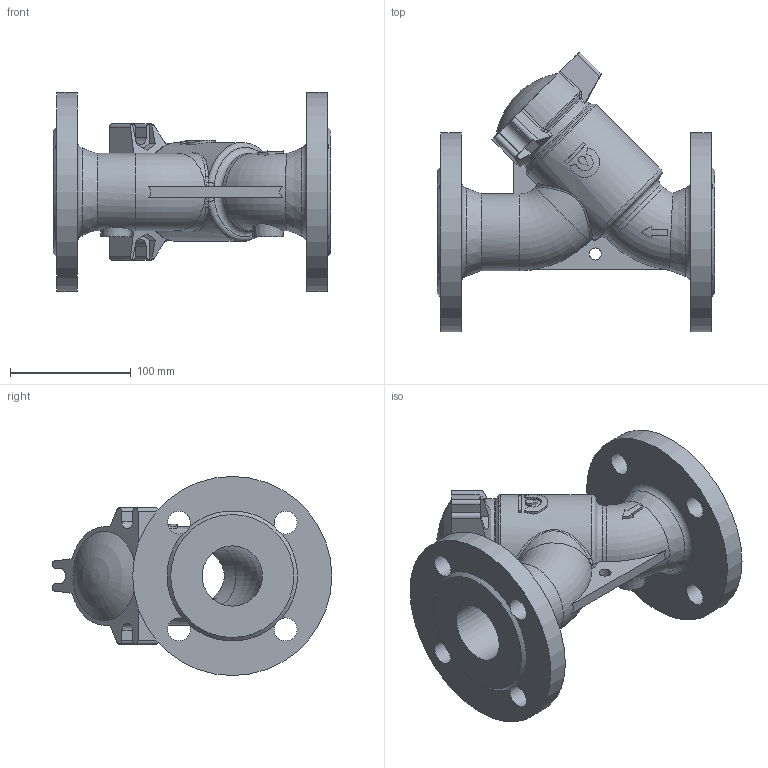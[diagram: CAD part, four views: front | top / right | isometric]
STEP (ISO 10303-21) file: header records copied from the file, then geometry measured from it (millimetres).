
FILE_DESCRIPTION(('STEP AP203'), '1');
FILE_NAME('Ôèëüòð ñåò÷àòûé ôëàíöåâûé 021Y.M DN50 PN10_PN16', '', ('UNSPECIFIED'), ('UNSPECIFIED'), 'ASCON STEP Converter 1.6', 'ASCON Math Kernel', '');
FILE_SCHEMA(('CONFIG_CONTROL_DESIGN'));
Length unit declared in the file: millimetre
Bounding box: 230 x 231.69 x 165 mm (x, y, z)
Volume: 1231714.3 mm3; surface area: 228896 mm2
Topology: 1 solids, 1 shells, 171 faces, 476 edges, 305 vertices
Faces by surface type: plane 63, cylinder 55, bspline 22, torus 19, cone 12
Full cylindrical faces by diameter (mm): 10 x1, 19 x8, 50 x4, 60 x2, 64 x1, 68 x1, 165 x2
Entity records: 12776 total; most frequent: CARTESIAN_POINT 7335, ORIENTED_EDGE 872, DIRECTION 749, EDGE_CURVE 436, AXIS2_PLACEMENT_3D 308, VERTEX_POINT 303, EDGE_LOOP 227, FACE_BOUND 186
